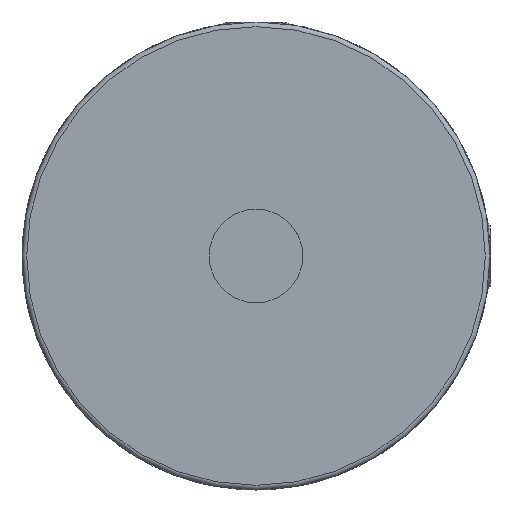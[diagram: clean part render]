
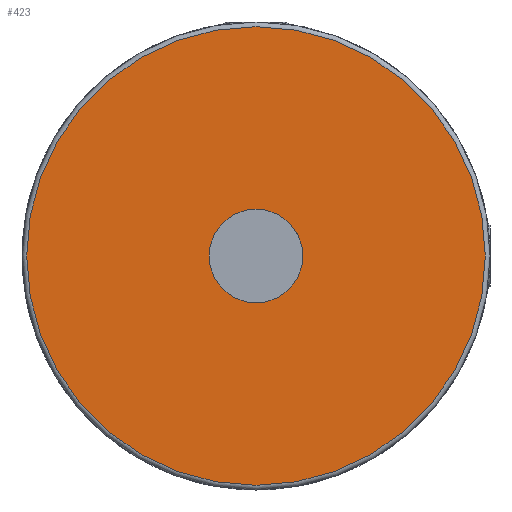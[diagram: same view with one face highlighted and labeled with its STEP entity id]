
A CAD part, left-side view. The second image highlights one B-rep face of the part: STEP entity #423.
In plain terms, the highlighted planar face has unit normal (-1, 0, 0).
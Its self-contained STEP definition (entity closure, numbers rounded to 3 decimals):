
#423 = ADVANCED_FACE( '', ( #888, #889 ), #890, .T. );
#888 = FACE_OUTER_BOUND( '', #1765, .T. );
#889 = FACE_BOUND( '', #1766, .T. );
#890 = PLANE( '', #1767 );
#1765 = EDGE_LOOP( '', ( #2864 ) );
#1766 = EDGE_LOOP( '', ( #2865 ) );
#1767 = AXIS2_PLACEMENT_3D( '', #2866, #2867, #2868 );
#2864 = ORIENTED_EDGE( '', *, *, #3372, .T. );
#2865 = ORIENTED_EDGE( '', *, *, #3104, .F. );
#2866 = CARTESIAN_POINT( '', ( 0., 0., 3. ) );
#2867 = DIRECTION( '', ( -1., 0., 0. ) );
#2868 = DIRECTION( '', ( 0., 0., 1. ) );
#3104 = EDGE_CURVE( '', #3656, #3656, #3657, .T. );
#3372 = EDGE_CURVE( '', #4004, #4004, #4005, .T. );
#3656 = VERTEX_POINT( '', #4602 );
#3657 = CIRCLE( '', #4603, 2.5 );
#4004 = VERTEX_POINT( '', #5499 );
#4005 = CIRCLE( '', #5500, 12.25 );
#4602 = CARTESIAN_POINT( '', ( 0., 0., 2.5 ) );
#4603 = AXIS2_PLACEMENT_3D( '', #5700, #5701, #5702 );
#5499 = CARTESIAN_POINT( '', ( 0., 0., 12.25 ) );
#5500 = AXIS2_PLACEMENT_3D( '', #5933, #5934, #5935 );
#5700 = CARTESIAN_POINT( '', ( 0., 0., 0. ) );
#5701 = DIRECTION( '', ( -1., 0., 0. ) );
#5702 = DIRECTION( '', ( 0., 0., 1. ) );
#5933 = CARTESIAN_POINT( '', ( 0., 0., 0. ) );
#5934 = DIRECTION( '', ( -1., 0., 0. ) );
#5935 = DIRECTION( '', ( 0., 0., 1. ) );
